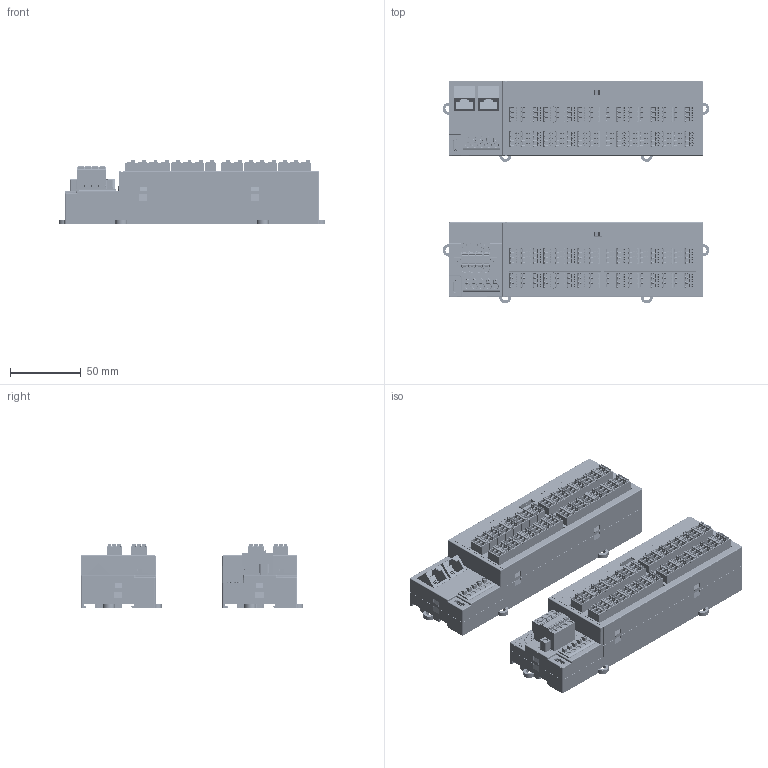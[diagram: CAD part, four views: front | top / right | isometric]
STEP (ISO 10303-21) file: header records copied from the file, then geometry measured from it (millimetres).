
FILE_DESCRIPTION(/* description */ (''),/* implementation_level */ '2;1');
FILE_NAME(/* name */ 'PLC长款-20240620.stp',/* time_stamp */ '2024-06-20T09:56:23+08:00',/* author */ (''),/* organization */ (''),/* preprocessor_version */ 'ST-DEVELOPER v16',/* originating_system */ 'SIEMENS PLM Software NX 10.0',/* authorisation */ '');
FILE_SCHEMA (('AUTOMOTIVE_DESIGN { 1 0 10303 214 3 1 1 1 }'));
Products named in the file (1): Admi9A447BFFb461
Bounding box: 188.5 x 157.25 x 45.6 mm (x, y, z)
Volume: 314010.1 mm3; surface area: 400759.7 mm2
Topology: 177 solids, 213 shells, 43484 faces, 119814 edges, 78950 vertices
Faces by surface type: plane 30113, extrusion 7216, cylinder 4653, cone 734, bspline 512, torus 141, sphere 115
Full cylindrical faces by diameter (mm): 0.361 x28, 1 x15, 1.1 x20, 1.3 x192, 1.4 x204, 1.5 x4, 1.6 x4, 1.73 x16, 1.8 x4, 2 x12, 2.7 x4, 2.8 x4, 3 x8, 3.2 x6, 3.5 x2, 3.85 x2, 5 x3
Entity records: 1558271 total; most frequent: CARTESIAN_POINT 377660, ORIENTED_EDGE 236510, DIRECTION 185232, EDGE_CURVE 118321, VECTOR 85500, VERTEX_POINT 78336, LINE 78284, AXIS2_PLACEMENT_3D 49866
